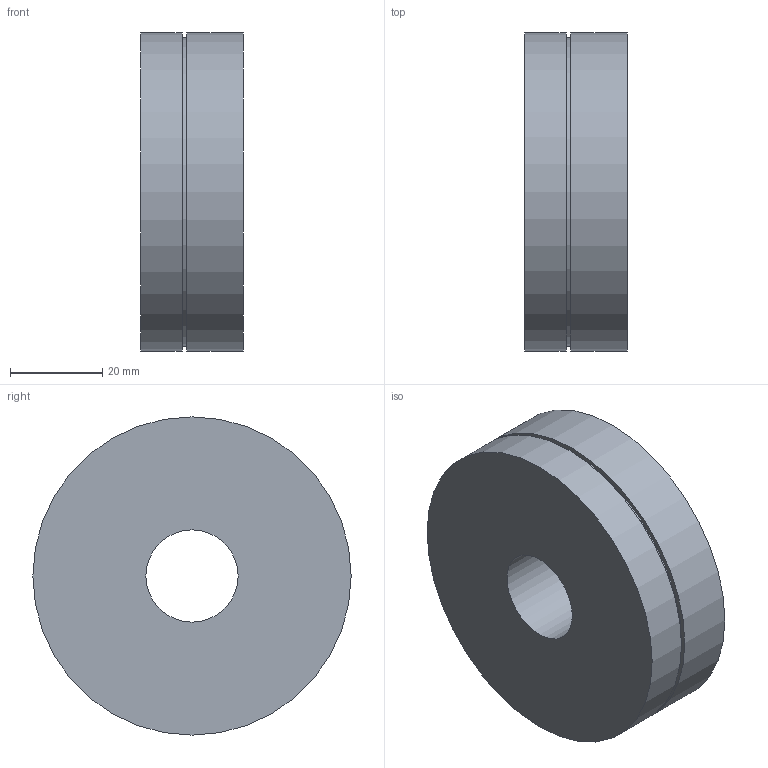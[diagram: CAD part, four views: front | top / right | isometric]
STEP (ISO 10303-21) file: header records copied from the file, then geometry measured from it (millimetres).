
FILE_DESCRIPTION(('Open CASCADE Model'),'2;1');
FILE_NAME('Open CASCADE Shape Model','2026-10-31T23:30:32',('Author'),( 'Open CASCADE'),'Open CASCADE STEP processor 7.9','Open CASCADE 7.9' ,'Unknown');
FILE_SCHEMA(('AUTOMOTIVE_DESIGN { 1 0 10303 214 1 1 1 1 }'));
Length unit declared in the file: millimetre
Products named in the file (1): Open CASCADE STEP translator 7.9 14
Bounding box: 22.3 x 69 x 69 mm (x, y, z)
Volume: 76166.6 mm3; surface area: 13506.3 mm2
Topology: 1 solids, 1 shells, 8 faces, 12 edges, 8 vertices
Faces by surface type: cylinder 4, plane 4
Full cylindrical faces by diameter (mm): 20 x1, 67 x1, 69 x2
Entity records: 366 total; most frequent: CARTESIAN_POINT 77, DIRECTION 58, ORIENTED_EDGE 24, PCURVE 24, DEFINITIONAL_REPRESENTATION 24, LINE 20, VECTOR 20, AXIS2_PLACEMENT_3D 17
